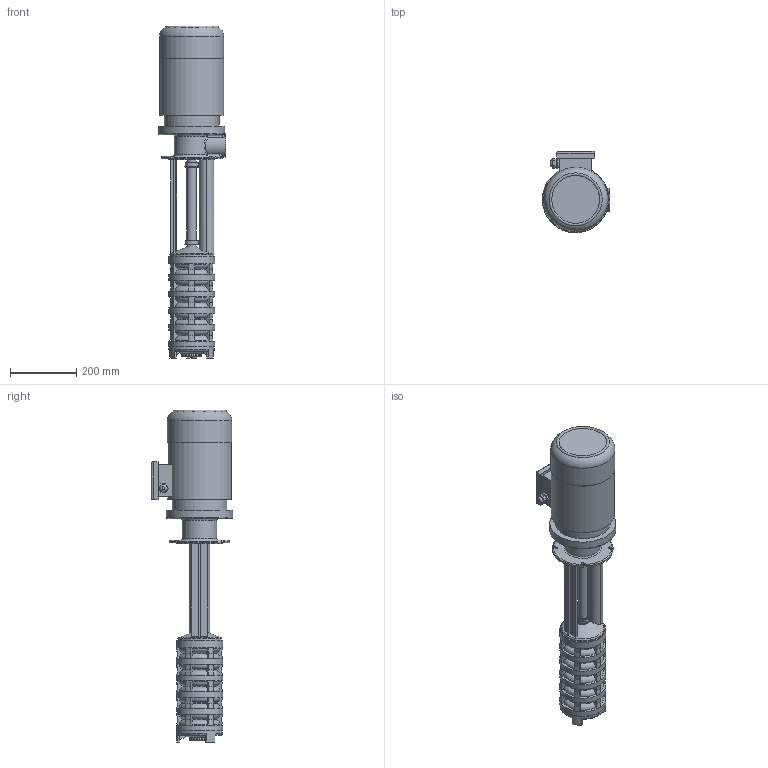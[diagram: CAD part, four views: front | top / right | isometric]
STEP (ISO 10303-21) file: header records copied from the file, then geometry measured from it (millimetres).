
FILE_DESCRIPTION(/* description */ ('Unknown'),/* implementation_level */ '2;1');
FILE_NAME(/* name */ 'gp6-600',/* time_stamp */ '2025-06-17T14:03:28+03:00',/* author */ ('Unknown'),/* organization */ ('Unknown'),/* preprocessor_version */ 'ST-DEVELOPER v16.7',/* originating_system */ 'DEX',/* authorisation */ $);
FILE_SCHEMA (('AUTOMOTIVE_DESIGN {1 0 10303 214 3 1 1}'));
Length unit declared in the file: millimetre
Products named in the file (1): gp6-600
Bounding box: 202 x 245.5 x 1000.49 mm (x, y, z)
Volume: 15783885.4 mm3; surface area: 689837 mm2
Topology: 1 solids, 1 shells, 519 faces, 1394 edges, 908 vertices
Faces by surface type: plane 170, cylinder 101, cone 87, bspline 84, torus 77
Full cylindrical faces by diameter (mm): 17 x1, 21.5 x1, 29 x3, 33 x2, 35 x2, 39 x2, 40.5 x2, 45 x1, 47 x1, 60 x1, 137 x1, 139 x6, 140 x1, 165 x1, 192.353 x1, 194 x1, 200 x1
Entity records: 18825 total; most frequent: CARTESIAN_POINT 6351, ORIENTED_EDGE 2630, DIRECTION 2499, EDGE_CURVE 1315, AXIS2_PLACEMENT_3D 955, VERTEX_POINT 889, EDGE_LOOP 614, FACE_BOUND 614
